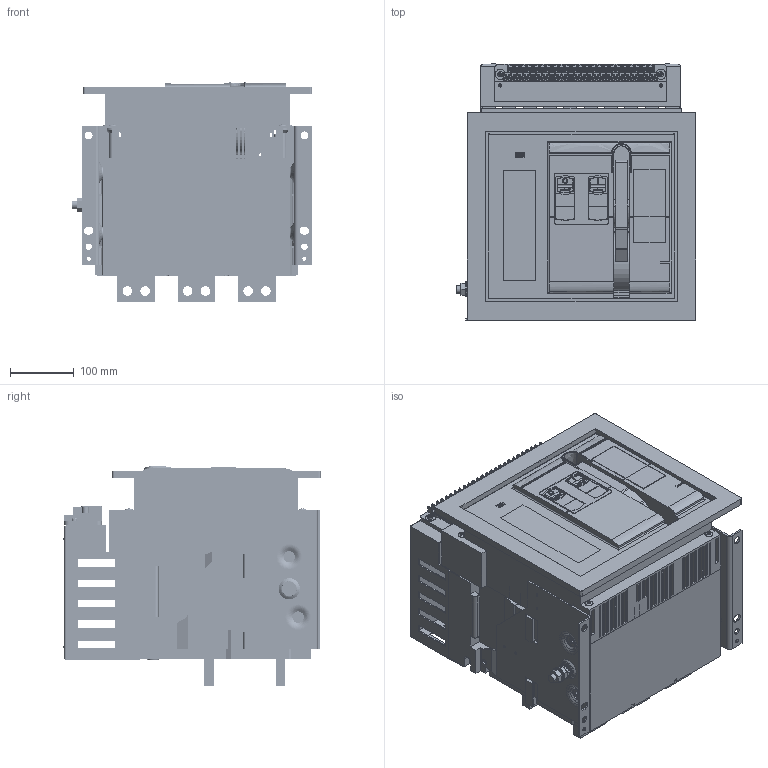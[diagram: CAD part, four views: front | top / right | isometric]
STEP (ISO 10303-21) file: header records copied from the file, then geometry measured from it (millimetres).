
FILE_DESCRIPTION (( 'STEP AP214' ), '1' );
FILE_NAME ('TENGEN_TGW1N-2000_3P_800A-1600A_F.STEP', '2026-06-01T09:38:35', ( '' ), ( '' ), 'SwSTEP 2.0', 'SolidWorks 2024', '' );
FILE_SCHEMA (( 'AUTOMOTIVE_DESIGN' ));
Length unit declared in the file: millimetre
Products named in the file (31): MANIFOLD_SOLID_BREP_117_1_1_1_1_1.stP; 8TZD_282_1272_AF0_7_1_1_1_1.stP; 8TZD_253_1325_22_1_1_1_1.stP; TENGEN_TGW1N-2000_3P_800A-1600A_F.stP; MANIFOLD_SOLID_BREP_119_1_1_1_1_1.stP; 8TZD_860_1386_5_1_1_1_1.stP; 8TZD_235_1114_34_1_1_1_1.stP; 2000A3P-GDSP_ASM_2_ASM_1_ASM_1__ASM_1.stP; TENGEN_TGW1N-2000_0001_ASM_1_ASM_1.stP; TENGEN_TGW1N-2000_3P_800A-1600A_F; MANIFOLD_SOLID_BREP_121_1_1_1_1_1.stP; 2000A3P-GDSP_ASM_1_ASM_1_ASM_1__ASM_1.stP; 2000ZHAOKE_ASM_ASM_1_ASM_1_ASM__ASM_1.stP; MANIFOLD_SOLID_BREP_64659_12_1__1.stP; GB_T9074_4-M6X80_4_1_1_1_1.stP; MANIFOLD_SOLID_BREP_122_1_1_1_1_1.stP; 2000ZHAOKE_ASM_1_ASM_1_ASM_1_AS_ASM_1.stP; 8TZD-253-1323_8_1_1_1_1.stP; TENGEN_TGW1N-2000_0001_ASM_1_AS_ASM_1.stP; TENGEN_TGW45-2000_0001_ASM_1_AS_ASM_1.stP; 8TZD_282_1271_AF1_11_1_1_1_1.stP; 8TZD_253_1322_28_1_1_1_1.stP; 8TZD_321_1011_43_1_1_1_1.stP; BOJ3B645A41J6D5_ASM_1_ASM_1_ASM_ASM_1.stP; TENGEN_Рамка_2000_Fixed; 5TZD_005_1023_ASM_23_ASM_1_ASM__ASM_1.stP; 8TZD_253_1324_21_1_1_1_1.stP; MANIFOLD_SOLID_BREP_120_1_1_1_1_1.stP; 8TZD_282_1271_AF2_11_1_1_1_1.stP; MANIFOLD_SOLID_BREP_123_1_1_1_1_1.stP; 8TZD_005_1074_85_1_1_1_1.stP
Assembly tree (33 placements, depth 9):
  TENGEN_TGW1N-2000_3P_800A-1600A_F
    TENGEN_TGW1N-2000_3P_800A-1600A_F.stP
      TENGEN_TGW1N-2000_0001_ASM_1_ASM_1.stP
        TENGEN_TGW1N-2000_0001_ASM_1_AS_ASM_1.stP
          TENGEN_TGW45-2000_0001_ASM_1_AS_ASM_1.stP
            2000A3P-GDSP_ASM_2_ASM_1_ASM_1__ASM_1.stP
              2000A3P-GDSP_ASM_1_ASM_1_ASM_1__ASM_1.stP
                BOJ3B645A41J6D5_ASM_1_ASM_1_ASM_ASM_1.stP
                  MANIFOLD_SOLID_BREP_117_1_1_1_1_1.stP
                  MANIFOLD_SOLID_BREP_119_1_1_1_1_1.stP
                  MANIFOLD_SOLID_BREP_120_1_1_1_1_1.stP
                  MANIFOLD_SOLID_BREP_121_1_1_1_1_1.stP
                  MANIFOLD_SOLID_BREP_122_1_1_1_1_1.stP
                  MANIFOLD_SOLID_BREP_123_1_1_1_1_1.stP
            2000ZHAOKE_ASM_ASM_1_ASM_1_ASM__ASM_1.stP
              2000ZHAOKE_ASM_1_ASM_1_ASM_1_AS_ASM_1.stP
                5TZD_005_1023_ASM_23_ASM_1_ASM__ASM_1.stP
                  8TZD_005_1074_85_1_1_1_1.stP
                  8TZD_253_1322_28_1_1_1_1.stP
                  8TZD_282_1272_AF0_7_1_1_1_1.stP
                  8TZD_235_1114_34_1_1_1_1.stP
                  8TZD_282_1271_AF1_11_1_1_1_1.stP
                  8TZD_282_1271_AF2_11_1_1_1_1.stP
                  8TZD_253_1325_22_1_1_1_1.stP
                  8TZD_253_1324_21_1_1_1_1.stP
                  8TZD_321_1011_43_1_1_1_1.stP
                  8TZD_860_1386_5_1_1_1_1.stP
                8TZD-253-1323_8_1_1_1_1.stP
                MANIFOLD_SOLID_BREP_64659_12_1__1.stP
                GB_T9074_4-M6X80_4_1_1_1_1.stP  x4
    TENGEN_Рамка_2000_Fixed
Bounding box: 377.4 x 404.7 x 345.72 mm (x, y, z)
Volume: 17480204.7 mm3; surface area: 1988225.9 mm2
Topology: 20 solids, 28 shells, 5379 faces, 14661 edges, 9435 vertices
Faces by surface type: plane 3631, cylinder 1124, bspline 447, cone 84, torus 81, sphere 12
Entity records: 238998 total; most frequent: CARTESIAN_POINT 107641, ORIENTED_EDGE 28524, DIRECTION 25144, EDGE_CURVE 14264, VECTOR 9556, LINE 9556, VERTEX_POINT 9267, AXIS2_PLACEMENT_3D 7794
